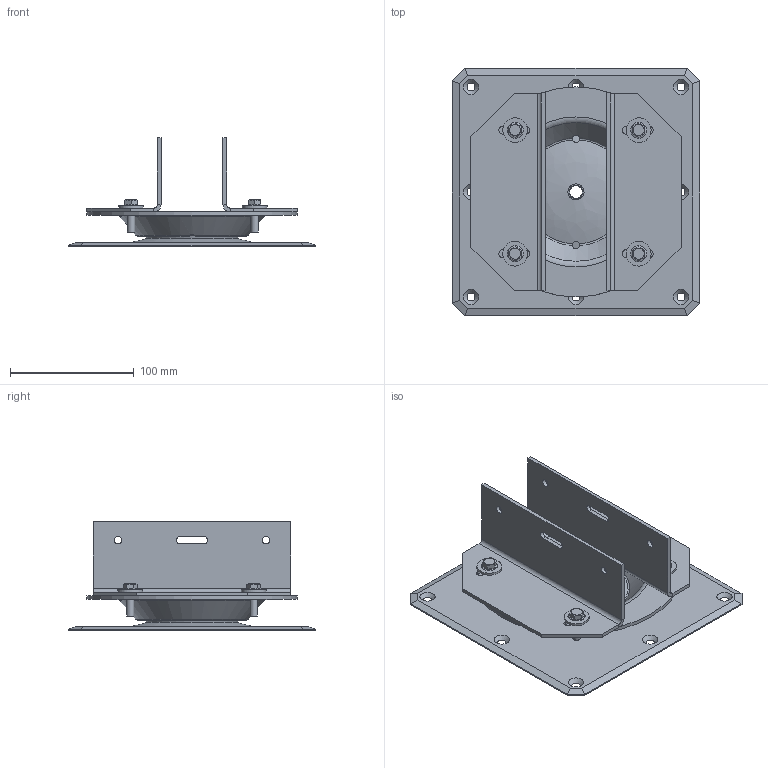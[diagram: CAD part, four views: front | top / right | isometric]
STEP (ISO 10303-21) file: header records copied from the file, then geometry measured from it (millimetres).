
FILE_DESCRIPTION(/* description */ ('PIN Typ A auf Holz mit Dachfolie'),/* implementation_level */ '2;1');
FILE_NAME(/* name */ '777-112_PIN-A-H-DF.stp',/* time_stamp */ '2024-01-15T10:42:35+01:00',/* author */ ('fstrolz'),/* organization */ (''),/* preprocessor_version */ 'ST-DEVELOPER v19.2',/* originating_system */ 'Autodesk Inventor 2023',/* authorisation */ '');
FILE_SCHEMA (('AUTOMOTIVE_DESIGN { 1 0 10303 214 3 1 1 }'));
Length unit declared in the file: millimetre
Products named in the file (10): 777-112_PIN-A-H-DF; 777-606; 777-606_01; 777-606_03; 777-501; 777-502; 777-503; 777-504; DIN 6921 - M6 x 20; DIN 125 - A 10,5
Assembly tree (13 placements, depth 3):
  777-112_PIN-A-H-DF
    777-606
      777-606_01
      777-606_03
    777-501
    777-502
    777-503  x2
    777-504  x4
      DIN 6921 - M6 x 20
      DIN 125 - A 10,5
Bounding box: 200 x 200 x 88 mm (x, y, z)
Volume: 306501.8 mm3; surface area: 220143.8 mm2
Topology: 14 solids, 14 shells, 191 faces, 458 edges, 293 vertices
Faces by surface type: plane 106, cylinder 44, cone 23, torus 10, bspline 7, sphere 1
Full cylindrical faces by diameter (mm): 5.7 x4, 6 x10, 10 x1, 10.2 x1, 10.5 x4, 11 x1, 13 x1, 20 x5, 170.033 x1
Entity records: 4138 total; most frequent: CARTESIAN_POINT 1081, DIRECTION 577, ORIENTED_EDGE 542, EDGE_CURVE 271, AXIS2_PLACEMENT_3D 223, VERTEX_POINT 173, EDGE_LOOP 150, LINE 131
